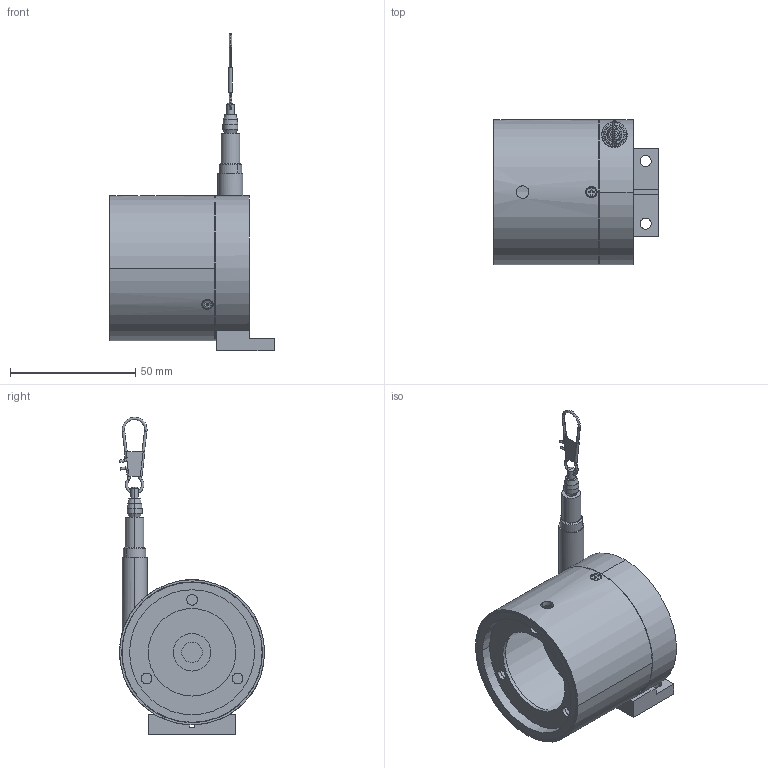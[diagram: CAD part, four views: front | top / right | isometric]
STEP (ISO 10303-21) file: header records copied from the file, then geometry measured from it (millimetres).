
FILE_DESCRIPTION((''),'2;1');
FILE_NAME('','2007-05-29T',(''),(''),'PRO/ENGINEER BY PARAMETRIC TECHNOLOGY CORPORATION, 2003250','PRO/ENGINEER BY PARAMETRIC TECHNOLOGY CORPORATION, 2003250','');
FILE_SCHEMA(('CONFIG_CONTROL_DESIGN'));
Length unit declared in the file: millimetre
Bounding box: 65.7 x 58.06 x 126.99 mm (x, y, z)
Volume: 50908.8 mm3; surface area: 42100.7 mm2
Topology: 1 solids, 4 shells, 341 faces, 855 edges, 531 vertices
Faces by surface type: cylinder 136, plane 121, cone 58, torus 20, bspline 4, sphere 2
Entity records: 11374 total; most frequent: CARTESIAN_POINT 3188, DIRECTION 1722, ORIENTED_EDGE 1658, EDGE_CURVE 829, AXIS2_PLACEMENT_3D 659, VERTEX_POINT 531, EDGE_LOOP 410, VECTOR 404
